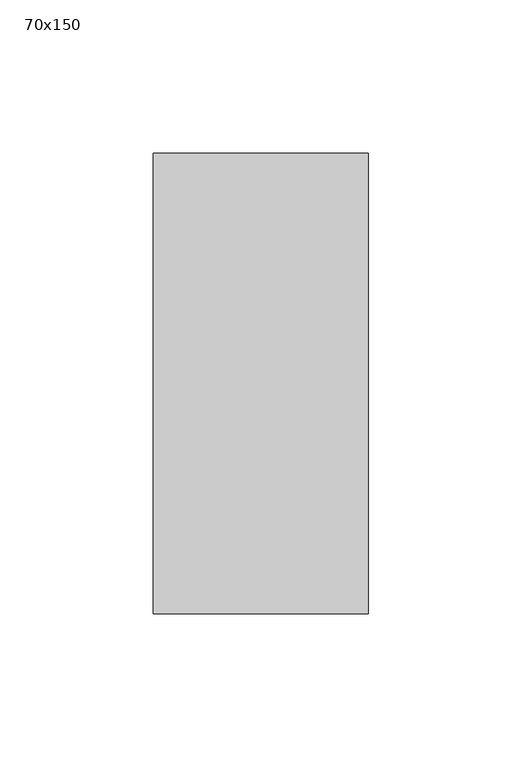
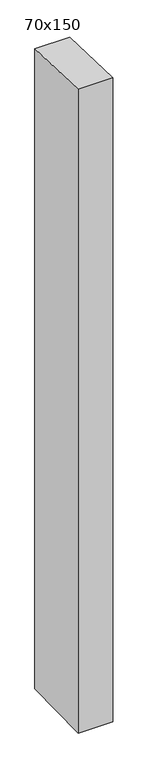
"""IFC4 building model written with IfcOpenShell, lengths in millimetres: member geometry, 長方形のマリオン : 70x150."""

from ifc_helpers import new_model, si_unit, frame, origin, place, context, project, spatial, polyline, outline, extrude, source, transform, mapped, element, save


def member_70x150_c8471558(model_context):
    return source(origin(), model_context, "Body", "SweptSolid", [
        extrude(outline(polyline([(-75.0, 2.3941027), (75.0, -2.3941027), (75.0, -1360.7942382), (-75.0, -1364.0833075), (-75.0, 2.3941027)])), frame((-70.0, 0.0, 0.0), z_axis=(1.0, 0.0, 0.0), x_axis=(0.0, 1.0, 0.0)), (0.0, 0.0, 1.0), 70.0),
    ])


if __name__ == "__main__":
    model = new_model("IFC4")
    model_context = context("Model", 3, world=origin())
    ifc_project = project(units=[si_unit("LENGTHUNIT", "METRE", prefix="MILLI")], contexts=[model_context])
    site = spatial("IfcSite", under=ifc_project)
    building = spatial("IfcBuilding", under=site)
    placement = place(None, origin())
    member_70x150_shape = member_70x150_c8471558(model_context)
    element("IfcMember", 1, ObjectType="長方形のマリオン : 70x150", at=placement, inside=building, context=model_context, shape_type="MappedRepresentation", body=[
        mapped(member_70x150_shape, transform((0.0, 0.0, 0.0), x_axis=(1.0, 0.0, 0.0), y_axis=(0.0, 1.0, 0.0), z_axis=(0.0, 0.0, 1.0))),
    ])
    save(model, "model.ifc")
